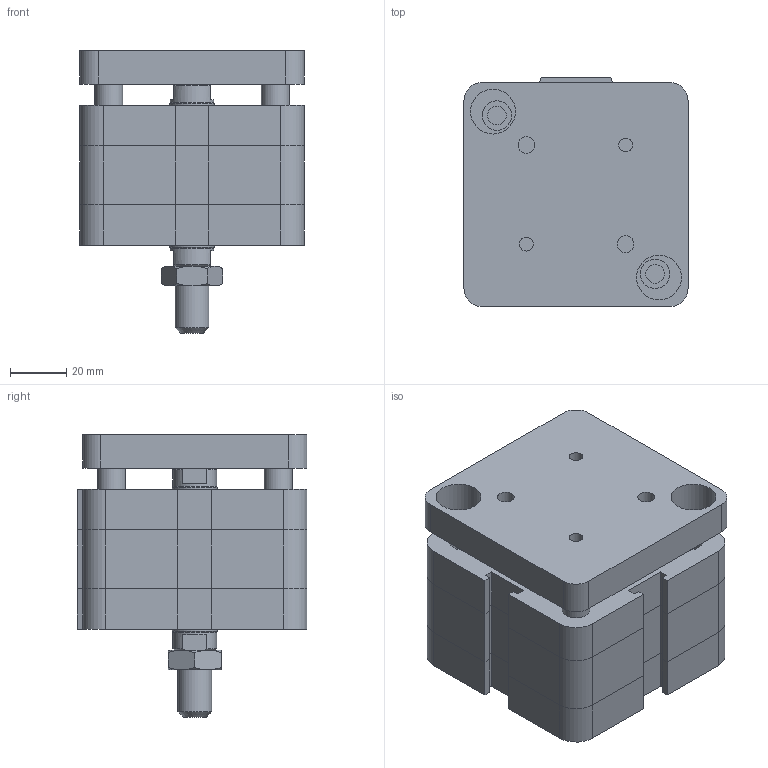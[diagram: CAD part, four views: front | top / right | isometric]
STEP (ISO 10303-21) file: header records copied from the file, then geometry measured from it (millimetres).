
FILE_DESCRIPTION((''),'2;1');
FILE_NAME('I:\Area Tecnica\Disegni\VARIE-3D\Componenti\EUROPE\15##_###_####_09_#\1561_63_0000_09_1.iam.stp','2009-04-20T15:38:47',(''),(''),'Autodesk Inventor 2009','Autodesk Inventor 2009','');
FILE_SCHEMA(('AUTOMOTIVE_DESIGN { 1 0 10303 214 1 1 1 1 }'));
Length unit declared in the file: millimetre
Products named in the file (4): 1561_63_0000_09_1; 1561_63_0000_08_1_C; 1561_63_0000_09_1_SA; DBFM12
Assembly tree (3 placements, depth 2):
  1561_63_0000_09_1
    1561_63_0000_08_1_C
    1561_63_0000_09_1_SA
    DBFM12
Bounding box: 80 x 82 x 101 mm (x, y, z)
Volume: 379615.1 mm3; surface area: 61345.8 mm2
Topology: 3 solids, 3 shells, 209 faces, 470 edges, 287 vertices
Faces by surface type: plane 120, bspline 45, cylinder 23, cone 21
Full cylindrical faces by diameter (mm): 10 x2, 10.8 x1, 12 x1, 15.6 x2, 16 x1
Entity records: 5963 total; most frequent: CARTESIAN_POINT 1453, DIRECTION 838, ORIENTED_EDGE 834, EDGE_CURVE 417, AXIS2_PLACEMENT_3D 282, EDGE_LOOP 282, VECTOR 274, LINE 274
